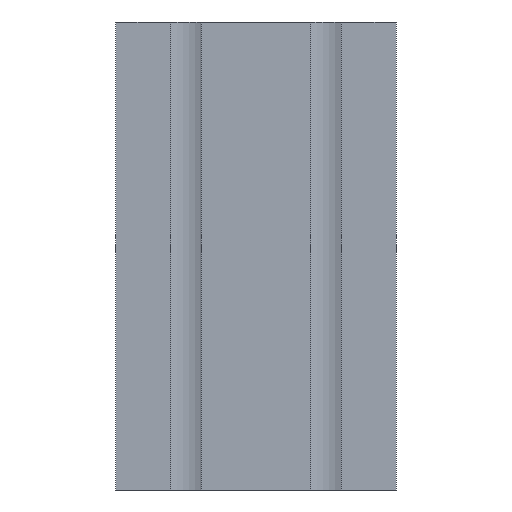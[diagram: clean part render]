
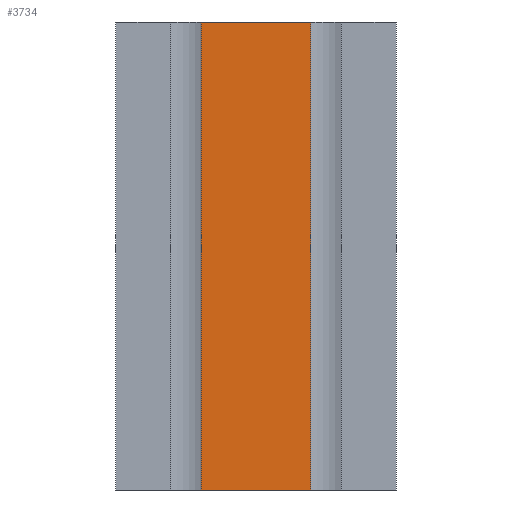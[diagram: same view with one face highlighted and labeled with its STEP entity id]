
A CAD part, front view. The second image highlights one B-rep face of the part: STEP entity #3734.
In plain terms, the highlighted planar face has unit normal (0, -1, 0).
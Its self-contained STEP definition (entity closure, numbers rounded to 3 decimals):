
#149=PLANE('',#4025);
#1306=ORIENTED_EDGE('',*,*,#1400,.T.);
#1307=ORIENTED_EDGE('',*,*,#1865,.T.);
#1308=ORIENTED_EDGE('',*,*,#1688,.F.);
#1309=ORIENTED_EDGE('',*,*,#1814,.F.);
#1400=EDGE_CURVE('',#1941,#1940,#2283,.T.);
#1688=EDGE_CURVE('',#2164,#2165,#2509,.T.);
#1814=EDGE_CURVE('',#1941,#2164,#2618,.T.);
#1865=EDGE_CURVE('',#1940,#2165,#2669,.T.);
#1940=VERTEX_POINT('',#5179);
#1941=VERTEX_POINT('',#5181);
#2164=VERTEX_POINT('',#5752);
#2165=VERTEX_POINT('',#5754);
#2283=LINE('',#5180,#2727);
#2509=LINE('',#5753,#2953);
#2618=LINE('',#6004,#3062);
#2669=LINE('',#6105,#3113);
#2727=VECTOR('',#4130,1000.);
#2953=VECTOR('',#4602,1000.);
#3062=VECTOR('',#4865,1000.);
#3113=VECTOR('',#5016,1000.);
#3308=EDGE_LOOP('',(#1306,#1307,#1308,#1309));
#3504=FACE_BOUND('',#3308,.T.);
#3734=ADVANCED_FACE('',(#3504),#149,.T.);
#4025=AXIS2_PLACEMENT_3D('',#6106,#5017,#5018);
#4130=DIRECTION('',(1.,0.,0.));
#4602=DIRECTION('',(1.,0.,0.));
#4865=DIRECTION('',(0.,0.,1.));
#5016=DIRECTION('',(0.,0.,1.));
#5017=DIRECTION('',(0.,-1.,0.));
#5018=DIRECTION('',(1.,0.,0.));
#5179=CARTESIAN_POINT('',(11.75,-15.,-45.));
#5180=CARTESIAN_POINT('',(-11.75,-15.,-45.));
#5181=CARTESIAN_POINT('',(-11.75,-15.,-45.));
#5752=CARTESIAN_POINT('',(-11.75,-15.,55.));
#5753=CARTESIAN_POINT('',(-11.75,-15.,55.));
#5754=CARTESIAN_POINT('',(11.75,-15.,55.));
#6004=CARTESIAN_POINT('',(-11.75,-15.,0.));
#6105=CARTESIAN_POINT('',(11.75,-15.,0.));
#6106=CARTESIAN_POINT('',(0.,-15.,0.));
